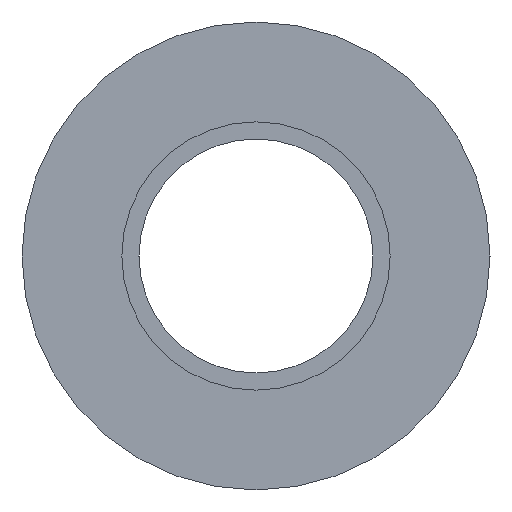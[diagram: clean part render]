
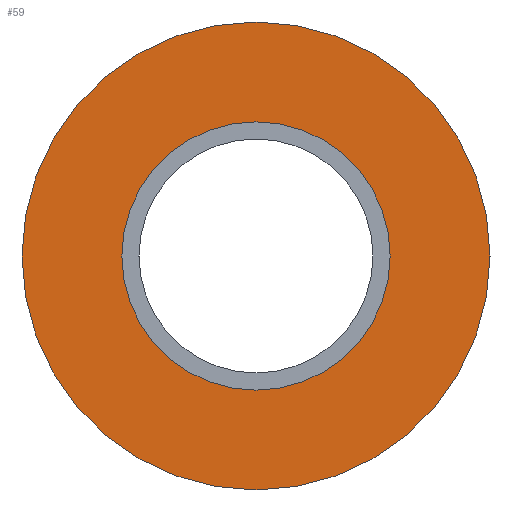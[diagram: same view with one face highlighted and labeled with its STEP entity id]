
A CAD part, left-side view. The second image highlights one B-rep face of the part: STEP entity #59.
In plain terms, the highlighted planar face has unit normal (-1, 0, 0).
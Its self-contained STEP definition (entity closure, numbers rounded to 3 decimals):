
#59 = ADVANCED_FACE( '', ( #114, #115 ), #116, .F. );
#114 = FACE_OUTER_BOUND( '', #176, .T. );
#115 = FACE_BOUND( '', #177, .T. );
#116 = PLANE( '', #178 );
#176 = EDGE_LOOP( '', ( #226 ) );
#177 = EDGE_LOOP( '', ( #227 ) );
#178 = AXIS2_PLACEMENT_3D( '', #228, #229, #230 );
#226 = ORIENTED_EDGE( '', *, *, #299, .T. );
#227 = ORIENTED_EDGE( '', *, *, #300, .F. );
#228 = CARTESIAN_POINT( '', ( -40., 0., 8.6 ) );
#229 = DIRECTION( '', ( 1., 0., 0. ) );
#230 = DIRECTION( '', ( 0., 1., 0. ) );
#299 = EDGE_CURVE( '', #323, #323, #324, .T. );
#300 = EDGE_CURVE( '', #325, #325, #326, .T. );
#323 = VERTEX_POINT( '', #359 );
#324 = CIRCLE( '', #360, 15. );
#325 = VERTEX_POINT( '', #361 );
#326 = CIRCLE( '', #362, 8.6 );
#359 = CARTESIAN_POINT( '', ( -40., 0., 15. ) );
#360 = AXIS2_PLACEMENT_3D( '', #394, #395, #396 );
#361 = CARTESIAN_POINT( '', ( -40., 0., 8.6 ) );
#362 = AXIS2_PLACEMENT_3D( '', #397, #398, #399 );
#394 = CARTESIAN_POINT( '', ( -40., 0., 0. ) );
#395 = DIRECTION( '', ( -1., 0., 0. ) );
#396 = DIRECTION( '', ( 0., 0., 1. ) );
#397 = CARTESIAN_POINT( '', ( -40., 0., 0. ) );
#398 = DIRECTION( '', ( -1., 0., 0. ) );
#399 = DIRECTION( '', ( 0., 0., 1. ) );
